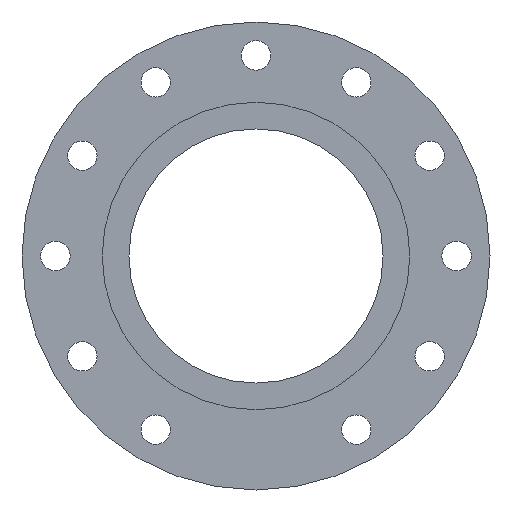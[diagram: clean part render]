
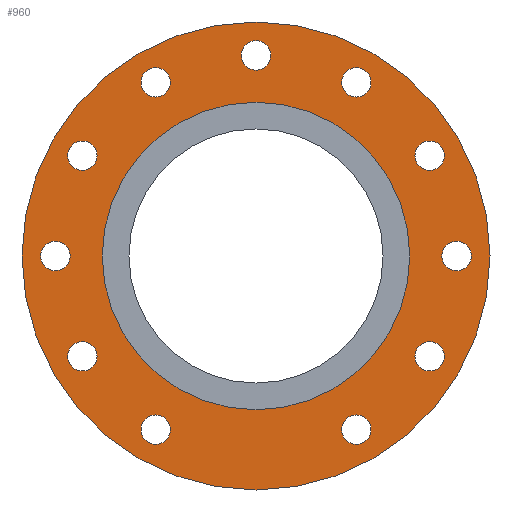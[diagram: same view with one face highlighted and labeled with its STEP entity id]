
A CAD part, left-side view. The second image highlights one B-rep face of the part: STEP entity #960.
In plain terms, the highlighted planar face has unit normal (-1, 0, 0).
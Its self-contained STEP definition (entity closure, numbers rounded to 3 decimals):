
#410=CARTESIAN_POINT('',(-35.0,0.0,-175.));
#411=VERTEX_POINT('',#410);
#412=CARTESIAN_POINT('',(-35.0,0.0,0.0));
#413=DIRECTION('',(1.0,0.0,0.0));
#414=DIRECTION('',(0.0,0.0,-1.0));
#415=AXIS2_PLACEMENT_3D('',#412,#413,#414);
#416=CIRCLE('',#415,175.);
#417=EDGE_CURVE('',#411,#411,#416,.T.);
#454=CARTESIAN_POINT('',(-35.0,-129.904,-86.));
#455=VERTEX_POINT('',#454);
#456=CARTESIAN_POINT('',(-35.,-129.904,-75.));
#457=DIRECTION('',(1.0,0.0,0.0));
#458=DIRECTION('',(0.0,0.0,-1.0));
#459=AXIS2_PLACEMENT_3D('',#456,#457,#458);
#460=CIRCLE('',#459,11.0);
#461=EDGE_CURVE('',#455,#455,#460,.T.);
#495=CARTESIAN_POINT('',(-35.0,-150.0,-11.));
#496=VERTEX_POINT('',#495);
#497=CARTESIAN_POINT('',(-35.,-150.0,0.));
#498=DIRECTION('',(1.0,0.0,0.0));
#499=DIRECTION('',(0.0,0.0,-1.0));
#500=AXIS2_PLACEMENT_3D('',#497,#498,#499);
#501=CIRCLE('',#500,11.0);
#502=EDGE_CURVE('',#496,#496,#501,.T.);
#536=CARTESIAN_POINT('',(-35.0,-129.904,64.));
#537=VERTEX_POINT('',#536);
#538=CARTESIAN_POINT('',(-35.,-129.904,75.));
#539=DIRECTION('',(1.0,0.0,0.0));
#540=DIRECTION('',(0.0,0.0,-1.0));
#541=AXIS2_PLACEMENT_3D('',#538,#539,#540);
#542=CIRCLE('',#541,11.0);
#543=EDGE_CURVE('',#537,#537,#542,.T.);
#577=CARTESIAN_POINT('',(-35.0,75.0,-140.904));
#578=VERTEX_POINT('',#577);
#579=CARTESIAN_POINT('',(-35.,75.0,-129.904));
#580=DIRECTION('',(1.0,0.0,0.0));
#581=DIRECTION('',(0.0,0.0,-1.0));
#582=AXIS2_PLACEMENT_3D('',#579,#580,#581);
#583=CIRCLE('',#582,11.0);
#584=EDGE_CURVE('',#578,#578,#583,.T.);
#618=CARTESIAN_POINT('',(-35.0,129.904,-86.));
#619=VERTEX_POINT('',#618);
#620=CARTESIAN_POINT('',(-35.,129.904,-75.));
#621=DIRECTION('',(1.0,0.0,0.0));
#622=DIRECTION('',(0.0,0.0,-1.0));
#623=AXIS2_PLACEMENT_3D('',#620,#621,#622);
#624=CIRCLE('',#623,11.0);
#625=EDGE_CURVE('',#619,#619,#624,.T.);
#659=CARTESIAN_POINT('',(-35.0,-75.,118.904));
#660=VERTEX_POINT('',#659);
#661=CARTESIAN_POINT('',(-35.,-75.,129.904));
#662=DIRECTION('',(1.0,0.0,0.0));
#663=DIRECTION('',(0.0,0.0,-1.0));
#664=AXIS2_PLACEMENT_3D('',#661,#662,#663);
#665=CIRCLE('',#664,11.0);
#666=EDGE_CURVE('',#660,#660,#665,.T.);
#700=CARTESIAN_POINT('',(-35.0,129.904,64.));
#701=VERTEX_POINT('',#700);
#702=CARTESIAN_POINT('',(-35.,129.904,75.));
#703=DIRECTION('',(1.0,0.0,0.0));
#704=DIRECTION('',(0.0,0.0,-1.0));
#705=AXIS2_PLACEMENT_3D('',#702,#703,#704);
#706=CIRCLE('',#705,11.0);
#707=EDGE_CURVE('',#701,#701,#706,.T.);
#741=CARTESIAN_POINT('',(-35.0,-75.,-140.904));
#742=VERTEX_POINT('',#741);
#743=CARTESIAN_POINT('',(-35.,-75.,-129.904));
#744=DIRECTION('',(1.0,0.0,0.0));
#745=DIRECTION('',(0.0,0.0,-1.0));
#746=AXIS2_PLACEMENT_3D('',#743,#744,#745);
#747=CIRCLE('',#746,11.0);
#748=EDGE_CURVE('',#742,#742,#747,.T.);
#782=CARTESIAN_POINT('',(-35.0,150.0,-11.));
#783=VERTEX_POINT('',#782);
#784=CARTESIAN_POINT('',(-35.,150.0,0.));
#785=DIRECTION('',(1.0,0.0,0.0));
#786=DIRECTION('',(0.0,0.0,-1.0));
#787=AXIS2_PLACEMENT_3D('',#784,#785,#786);
#788=CIRCLE('',#787,11.0);
#789=EDGE_CURVE('',#783,#783,#788,.T.);
#823=CARTESIAN_POINT('',(-35.0,75.,118.904));
#824=VERTEX_POINT('',#823);
#825=CARTESIAN_POINT('',(-35.,75.,129.904));
#826=DIRECTION('',(1.0,0.0,0.0));
#827=DIRECTION('',(0.0,0.0,-1.0));
#828=AXIS2_PLACEMENT_3D('',#825,#826,#827);
#829=CIRCLE('',#828,11.0);
#830=EDGE_CURVE('',#824,#824,#829,.T.);
#864=CARTESIAN_POINT('',(-35.0,0.,139.0));
#865=VERTEX_POINT('',#864);
#866=CARTESIAN_POINT('',(-35.,0.,150.0));
#867=DIRECTION('',(1.0,0.0,0.0));
#868=DIRECTION('',(0.0,0.0,-1.0));
#869=AXIS2_PLACEMENT_3D('',#866,#867,#868);
#870=CIRCLE('',#869,11.0);
#871=EDGE_CURVE('',#865,#865,#870,.T.);
#901=CARTESIAN_POINT('',(-35.,0.0,-115.0));
#902=VERTEX_POINT('',#901);
#903=CARTESIAN_POINT('',(-35.,0.0,0.0));
#904=DIRECTION('',(1.0,0.0,0.0));
#905=DIRECTION('',(0.0,0.0,-1.0));
#906=AXIS2_PLACEMENT_3D('',#903,#904,#905);
#907=CIRCLE('',#906,115.0);
#908=EDGE_CURVE('',#902,#902,#907,.T.);
#916=CARTESIAN_POINT('',(-35.,0.0,-145.));
#917=DIRECTION('',(-1.0,0.0,0.0));
#918=DIRECTION('',(0.0,0.0,1.0));
#919=AXIS2_PLACEMENT_3D('',#916,#917,#918);
#920=PLANE('',#919);
#921=ORIENTED_EDGE('',*,*,#417,.F.);
#922=EDGE_LOOP('',(#921));
#923=FACE_OUTER_BOUND('',#922,.T.);
#924=ORIENTED_EDGE('',*,*,#461,.T.);
#925=EDGE_LOOP('',(#924));
#926=FACE_BOUND('',#925,.T.);
#927=ORIENTED_EDGE('',*,*,#502,.T.);
#928=EDGE_LOOP('',(#927));
#929=FACE_BOUND('',#928,.T.);
#930=ORIENTED_EDGE('',*,*,#543,.T.);
#931=EDGE_LOOP('',(#930));
#932=FACE_BOUND('',#931,.T.);
#933=ORIENTED_EDGE('',*,*,#584,.T.);
#934=EDGE_LOOP('',(#933));
#935=FACE_BOUND('',#934,.T.);
#936=ORIENTED_EDGE('',*,*,#625,.T.);
#937=EDGE_LOOP('',(#936));
#938=FACE_BOUND('',#937,.T.);
#939=ORIENTED_EDGE('',*,*,#666,.T.);
#940=EDGE_LOOP('',(#939));
#941=FACE_BOUND('',#940,.T.);
#942=ORIENTED_EDGE('',*,*,#707,.T.);
#943=EDGE_LOOP('',(#942));
#944=FACE_BOUND('',#943,.T.);
#945=ORIENTED_EDGE('',*,*,#748,.T.);
#946=EDGE_LOOP('',(#945));
#947=FACE_BOUND('',#946,.T.);
#948=ORIENTED_EDGE('',*,*,#789,.T.);
#949=EDGE_LOOP('',(#948));
#950=FACE_BOUND('',#949,.T.);
#951=ORIENTED_EDGE('',*,*,#830,.T.);
#952=EDGE_LOOP('',(#951));
#953=FACE_BOUND('',#952,.T.);
#954=ORIENTED_EDGE('',*,*,#871,.T.);
#955=EDGE_LOOP('',(#954));
#956=FACE_BOUND('',#955,.T.);
#957=ORIENTED_EDGE('',*,*,#908,.T.);
#958=EDGE_LOOP('',(#957));
#959=FACE_BOUND('',#958,.T.);
#960=ADVANCED_FACE('',(#923,#926,#929,#932,#935,#938,#941,#944,#947,#950,#953,#956,#959),#920,.T.);
